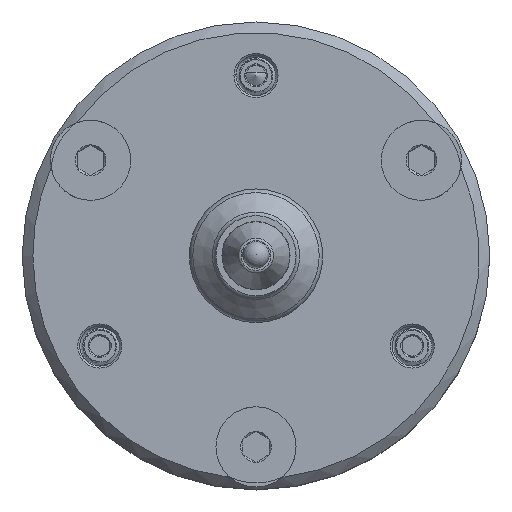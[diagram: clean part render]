
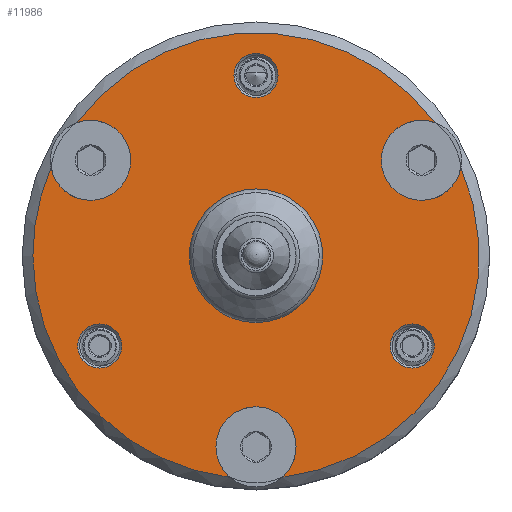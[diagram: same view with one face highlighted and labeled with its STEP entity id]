
A CAD part, top view. The second image highlights one B-rep face of the part: STEP entity #11986.
In plain terms, the highlighted planar face has unit normal (0, 0, 1).
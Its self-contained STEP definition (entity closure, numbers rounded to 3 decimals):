
#1577=FACE_BOUND('',#2815,.T.);
#1578=FACE_BOUND('',#2816,.T.);
#1579=FACE_BOUND('',#2817,.T.);
#1580=FACE_BOUND('',#2818,.T.);
#1647=PLANE('',#13009);
#2072=FACE_OUTER_BOUND('',#2814,.T.);
#2814=EDGE_LOOP('',(#8950,#8951,#8952,#8953,#8954,#8955,#8956,#8957,#8958));
#2815=EDGE_LOOP('',(#8959));
#2816=EDGE_LOOP('',(#8960));
#2817=EDGE_LOOP('',(#8961));
#2818=EDGE_LOOP('',(#8962));
#3476=CIRCLE('',#12992,16.7);
#3478=CIRCLE('',#12994,16.7);
#3479=CIRCLE('',#12995,16.7);
#3480=CIRCLE('',#12996,16.7);
#3481=CIRCLE('',#12998,3.);
#3483=CIRCLE('',#13000,3.);
#3484=CIRCLE('',#13002,3.);
#3487=CIRCLE('',#13007,1.65);
#3489=CIRCLE('',#13010,3.);
#3490=CIRCLE('',#13011,3.);
#3491=CIRCLE('',#13012,1.65);
#3492=CIRCLE('',#13013,5.);
#3493=CIRCLE('',#13014,1.65);
#5233=VERTEX_POINT('',#20846);
#5234=VERTEX_POINT('',#20847);
#5235=VERTEX_POINT('',#20858);
#5237=VERTEX_POINT('',#20863);
#5239=VERTEX_POINT('',#20872);
#5240=VERTEX_POINT('',#20881);
#5241=VERTEX_POINT('',#20883);
#5242=VERTEX_POINT('',#20896);
#5246=VERTEX_POINT('',#20912);
#5248=VERTEX_POINT('',#20918);
#5249=VERTEX_POINT('',#20921);
#5250=VERTEX_POINT('',#20923);
#5251=VERTEX_POINT('',#20925);
#6615=EDGE_CURVE('',#5234,#5235,#3476,.T.);
#6618=EDGE_CURVE('',#5235,#5237,#3478,.T.);
#6621=EDGE_CURVE('',#5239,#5240,#3479,.T.);
#6623=EDGE_CURVE('',#5241,#5233,#3480,.T.);
#6624=EDGE_CURVE('',#5240,#5242,#3481,.T.);
#6627=EDGE_CURVE('',#5242,#5241,#3483,.T.);
#6628=EDGE_CURVE('',#5237,#5239,#3484,.T.);
#6633=EDGE_CURVE('',#5246,#5246,#3487,.T.);
#6636=EDGE_CURVE('',#5248,#5234,#3489,.T.);
#6637=EDGE_CURVE('',#5233,#5248,#3490,.T.);
#6638=EDGE_CURVE('',#5249,#5249,#3491,.T.);
#6639=EDGE_CURVE('',#5250,#5250,#3492,.T.);
#6640=EDGE_CURVE('',#5251,#5251,#3493,.T.);
#8950=ORIENTED_EDGE('',*,*,#6623,.F.);
#8951=ORIENTED_EDGE('',*,*,#6627,.F.);
#8952=ORIENTED_EDGE('',*,*,#6624,.F.);
#8953=ORIENTED_EDGE('',*,*,#6621,.F.);
#8954=ORIENTED_EDGE('',*,*,#6628,.F.);
#8955=ORIENTED_EDGE('',*,*,#6618,.F.);
#8956=ORIENTED_EDGE('',*,*,#6615,.F.);
#8957=ORIENTED_EDGE('',*,*,#6636,.F.);
#8958=ORIENTED_EDGE('',*,*,#6637,.F.);
#8959=ORIENTED_EDGE('',*,*,#6638,.F.);
#8960=ORIENTED_EDGE('',*,*,#6639,.T.);
#8961=ORIENTED_EDGE('',*,*,#6640,.F.);
#8962=ORIENTED_EDGE('',*,*,#6633,.F.);
#11986=ADVANCED_FACE('',(#2072,#1577,#1578,#1579,#1580),#1647,.T.);
#12992=AXIS2_PLACEMENT_3D('',#20859,#14028,#14029);
#12994=AXIS2_PLACEMENT_3D('',#20864,#14033,#14034);
#12995=AXIS2_PLACEMENT_3D('',#20882,#14035,#14036);
#12996=AXIS2_PLACEMENT_3D('',#20894,#14037,#14038);
#12998=AXIS2_PLACEMENT_3D('',#20897,#14041,#14042);
#13000=AXIS2_PLACEMENT_3D('',#20901,#14046,#14047);
#13002=AXIS2_PLACEMENT_3D('',#20903,#14050,#14051);
#13007=AXIS2_PLACEMENT_3D('',#20913,#14062,#14063);
#13009=AXIS2_PLACEMENT_3D('',#20917,#14067,#14068);
#13010=AXIS2_PLACEMENT_3D('',#20919,#14069,#14070);
#13011=AXIS2_PLACEMENT_3D('',#20920,#14071,#14072);
#13012=AXIS2_PLACEMENT_3D('',#20922,#14073,#14074);
#13013=AXIS2_PLACEMENT_3D('',#20924,#14075,#14076);
#13014=AXIS2_PLACEMENT_3D('',#20926,#14077,#14078);
#14028=DIRECTION('center_axis',(0.,0.,-1.));
#14029=DIRECTION('ref_axis',(1.,0.,0.));
#14033=DIRECTION('center_axis',(0.,0.,-1.));
#14034=DIRECTION('ref_axis',(1.,0.,0.));
#14035=DIRECTION('center_axis',(0.,0.,-1.));
#14036=DIRECTION('ref_axis',(1.,0.,0.));
#14037=DIRECTION('center_axis',(0.,0.,-1.));
#14038=DIRECTION('ref_axis',(1.,0.,0.));
#14041=DIRECTION('center_axis',(0.,0.,1.));
#14042=DIRECTION('ref_axis',(1.,0.,0.));
#14046=DIRECTION('center_axis',(0.,0.,1.));
#14047=DIRECTION('ref_axis',(1.,0.,0.));
#14050=DIRECTION('center_axis',(0.,0.,1.));
#14051=DIRECTION('ref_axis',(1.,0.,0.));
#14062=DIRECTION('center_axis',(0.,0.,1.));
#14063=DIRECTION('ref_axis',(1.,0.,0.));
#14067=DIRECTION('center_axis',(0.,0.,1.));
#14068=DIRECTION('ref_axis',(1.,0.,0.));
#14069=DIRECTION('center_axis',(0.,0.,1.));
#14070=DIRECTION('ref_axis',(1.,0.,0.));
#14071=DIRECTION('center_axis',(0.,0.,1.));
#14072=DIRECTION('ref_axis',(1.,0.,0.));
#14073=DIRECTION('center_axis',(0.,0.,1.));
#14074=DIRECTION('ref_axis',(1.,0.,0.));
#14075=DIRECTION('center_axis',(0.,0.,-1.));
#14076=DIRECTION('ref_axis',(1.,0.,0.));
#14077=DIRECTION('center_axis',(0.,0.,1.));
#14078=DIRECTION('ref_axis',(1.,0.,0.));
#20846=CARTESIAN_POINT('',(1.942,-16.587,3.));
#20847=CARTESIAN_POINT('',(-1.942,-16.587,3.));
#20858=CARTESIAN_POINT('',(-16.7,0.,3.));
#20859=CARTESIAN_POINT('Origin',(0.,0.,3.));
#20863=CARTESIAN_POINT('',(-15.335,6.612,3.));
#20864=CARTESIAN_POINT('Origin',(0.,0.,3.));
#20872=CARTESIAN_POINT('',(-13.394,9.975,3.));
#20881=CARTESIAN_POINT('',(13.394,9.975,3.));
#20882=CARTESIAN_POINT('Origin',(0.,0.,3.));
#20883=CARTESIAN_POINT('',(15.335,6.612,3.));
#20894=CARTESIAN_POINT('Origin',(0.,0.,3.));
#20896=CARTESIAN_POINT('',(9.384,7.15,3.));
#20897=CARTESIAN_POINT('Origin',(12.384,7.15,3.));
#20901=CARTESIAN_POINT('Origin',(12.384,7.15,3.));
#20903=CARTESIAN_POINT('Origin',(-12.384,7.15,3.));
#20912=CARTESIAN_POINT('',(10.041,-6.75,3.));
#20913=CARTESIAN_POINT('Origin',(11.691,-6.75,3.));
#20917=CARTESIAN_POINT('Origin',(0.,0.,3.));
#20918=CARTESIAN_POINT('',(-3.,-14.3,3.));
#20919=CARTESIAN_POINT('Origin',(0.,-14.3,3.));
#20920=CARTESIAN_POINT('Origin',(0.,-14.3,3.));
#20921=CARTESIAN_POINT('',(-13.341,-6.75,3.));
#20922=CARTESIAN_POINT('Origin',(-11.691,-6.75,3.));
#20923=CARTESIAN_POINT('',(-5.,0.,3.));
#20924=CARTESIAN_POINT('Origin',(0.,0.,3.));
#20925=CARTESIAN_POINT('',(-1.65,13.5,3.));
#20926=CARTESIAN_POINT('Origin',(0.,13.5,
3.));
